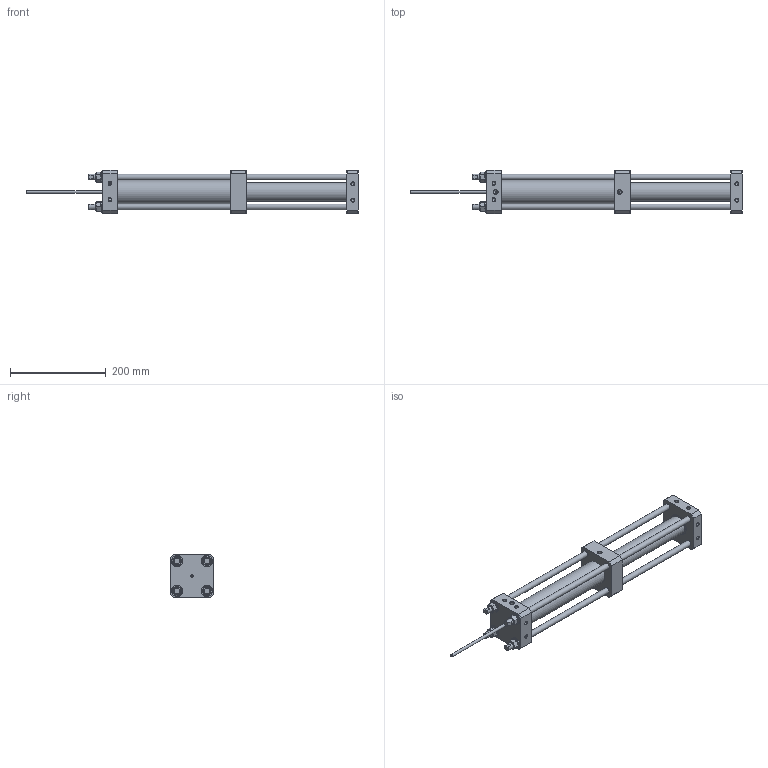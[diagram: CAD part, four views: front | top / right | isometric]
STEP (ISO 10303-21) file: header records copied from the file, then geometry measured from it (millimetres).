
FILE_DESCRIPTION(/* description */ (''),/* implementation_level */ '2;1');
FILE_NAME(/* name */ 'H13.3000.STP',/* time_stamp */ '2026-06-09T22:25:04+02:00',/* author */ ('janos'),/* organization */ (''),/* preprocessor_version */ 'ST-DEVELOPER v19.2',/* originating_system */ 'Autodesk Inventor 2024',/* authorisation */ '');
FILE_SCHEMA (('AUTOMOTIVE_DESIGN { 1 0 10303 214 3 1 1 }'));
Length unit declared in the file: millimetre
Products named in the file (1): HDÜ.BG.3000.13.1_Vereinfachen_1
Bounding box: 692 x 90 x 90 mm (x, y, z)
Volume: 1622523.5 mm3; surface area: 227322.1 mm2
Topology: 1 solids, 1 shells, 238 faces, 595 edges, 376 vertices
Faces by surface type: plane 91, cone 89, cylinder 57, torus 1
Full cylindrical faces by diameter (mm): 3 x2, 6 x1, 6.647 x16, 8.566 x2, 12 x8, 13 x4, 14.376 x1, 24 x4, 39 x1, 45 x1, 50 x1
Entity records: 7330 total; most frequent: CARTESIAN_POINT 1480, DIRECTION 1184, ORIENTED_EDGE 1158, EDGE_CURVE 579, AXIS2_PLACEMENT_3D 476, VERTEX_POINT 376, EDGE_LOOP 291, STYLED_ITEM 239
